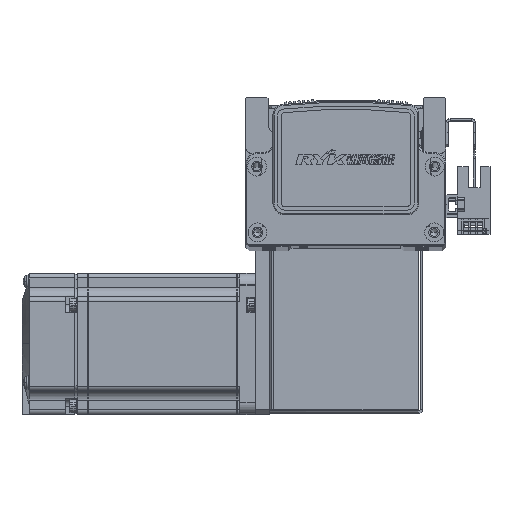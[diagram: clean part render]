
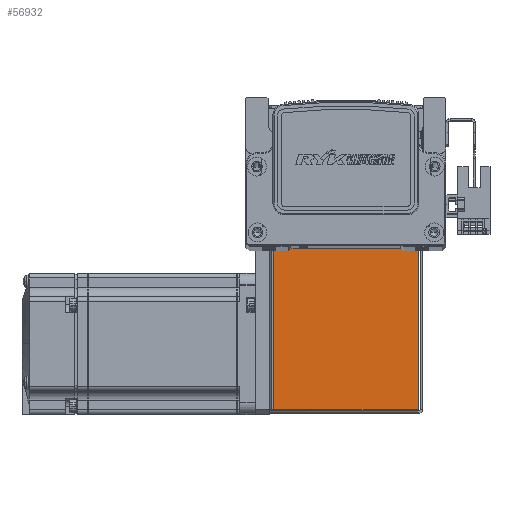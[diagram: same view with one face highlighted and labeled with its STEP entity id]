
A CAD part, top view. The second image highlights one B-rep face of the part: STEP entity #56932.
In plain terms, the highlighted planar face has unit normal (0, 0, 1) as drawn and (0, 0, -1) by its records, which use the part's own axes.
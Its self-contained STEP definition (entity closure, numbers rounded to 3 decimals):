
#16305 = DIRECTION ( 'NONE',  ( 0., -1., 0. ) ) ;
#16315 = DIRECTION ( 'NONE',  ( 0., 0., 1. ) ) ;
#16323 = PLANE ( 'NONE',  #81951 ) ;
#16325 = CARTESIAN_POINT ( 'NONE',  ( 0., 0., -35. ) ) ;
#18203 = ORIENTED_EDGE ( 'NONE', *, *, #74329, .T. ) ;
#18205 = ORIENTED_EDGE ( 'NONE', *, *, #74317, .T. ) ;
#18207 = ORIENTED_EDGE ( 'NONE', *, *, #74406, .F. ) ;
#18251 = ORIENTED_EDGE ( 'NONE', *, *, #74313, .T. ) ;
#19437 = CARTESIAN_POINT ( 'NONE',  ( 32.5, 0.737, -35. ) ) ;
#19494 = DIRECTION ( 'NONE',  ( 1., 0., 0. ) ) ;
#23851 = CARTESIAN_POINT ( 'NONE',  ( -30.793, 0., -35. ) ) ;
#23862 = CARTESIAN_POINT ( 'NONE',  ( 30.763, 72.5, -35. ) ) ;
#23867 = DIRECTION ( 'NONE',  ( 0., -1., 0. ) ) ;
#23882 = DIRECTION ( 'NONE',  ( 0., 1., 0. ) ) ;
#23923 = DIRECTION ( 'NONE',  ( 1., 0., 0. ) ) ;
#23959 = CARTESIAN_POINT ( 'NONE',  ( 0., 72.5, -35. ) ) ;
#27269 = EDGE_LOOP ( 'NONE', ( #18205, #18207, #18251, #18203 ) ) ;
#32774 = CARTESIAN_POINT ( 'NONE',  ( 30.763, 0.737, -35. ) ) ;
#32780 = CARTESIAN_POINT ( 'NONE',  ( 30.763, 72.5, -35. ) ) ;
#32816 = CARTESIAN_POINT ( 'NONE',  ( -30.793, 72.5, -35. ) ) ;
#32872 = CARTESIAN_POINT ( 'NONE',  ( -30.793, 0.737, -35. ) ) ;
#33248 = FACE_OUTER_BOUND ( 'NONE', #27269, .T. ) ;
#51134 = LINE ( 'NONE', #23959, #51140 ) ;
#51140 = VECTOR ( 'NONE', #23923, 1000. ) ;
#51147 = LINE ( 'NONE', #23851, #51180 ) ;
#51151 = LINE ( 'NONE', #23862, #51189 ) ;
#51180 = VECTOR ( 'NONE', #23882, 1000. ) ;
#51189 = VECTOR ( 'NONE', #23867, 1000. ) ;
#51289 = LINE ( 'NONE', #19437, #51345 ) ;
#51345 = VECTOR ( 'NONE', #19494, 1000. ) ;
#56932 = ADVANCED_FACE ( 'NONE', ( #33248 ), #16323, .F. ) ;
#74313 = EDGE_CURVE ( 'NONE', #79458, #79406, #51147, .T. ) ;
#74317 = EDGE_CURVE ( 'NONE', #79384, #79363, #51151, .T. ) ;
#74329 = EDGE_CURVE ( 'NONE', #79406, #79384, #51134, .T. ) ;
#74406 = EDGE_CURVE ( 'NONE', #79458, #79363, #51289, .T. ) ;
#79363 = VERTEX_POINT ( 'NONE', #32774 ) ;
#79384 = VERTEX_POINT ( 'NONE', #32780 ) ;
#79406 = VERTEX_POINT ( 'NONE', #32816 ) ;
#79458 = VERTEX_POINT ( 'NONE', #32872 ) ;
#81951 = AXIS2_PLACEMENT_3D ( 'NONE', #16325, #16315, #16305 ) ;
